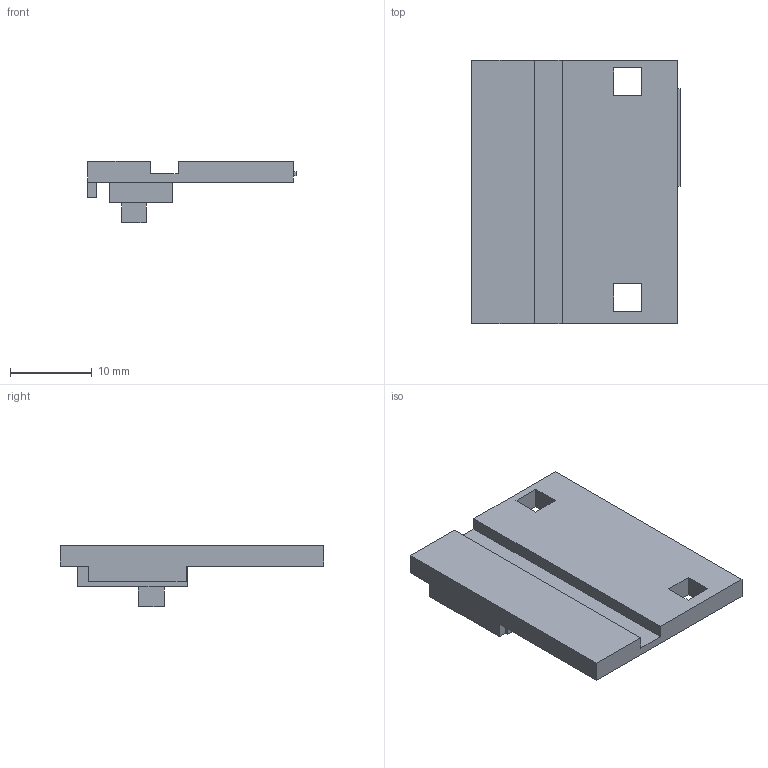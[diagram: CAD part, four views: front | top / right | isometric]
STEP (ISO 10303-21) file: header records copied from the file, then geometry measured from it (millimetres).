
FILE_DESCRIPTION(('FreeCAD Model'),'2;1');
FILE_NAME('Open CASCADE Shape Model','2026-11-20T16:32:56',('FreeCAD'),( 'FreeCAD'),'Open CASCADE STEP processor 7.8','FreeCAD','Unknown');
FILE_SCHEMA(('AUTOMOTIVE_DESIGN { 1 0 10303 214 1 1 1 1 }'));
Length unit declared in the file: millimetre
Products named in the file (1): Open CASCADE STEP translator 7.8 2
Bounding box: 25.54 x 32.35 x 7.54 mm (x, y, z)
Volume: 2143.9 mm3; surface area: 2278.1 mm2
Topology: 1 solids, 1 shells, 43 faces, 120 edges, 80 vertices
Faces by surface type: plane 43
Entity records: 1372 total; most frequent: CARTESIAN_POINT 244, ORIENTED_EDGE 240, DIRECTION 208, EDGE_CURVE 120, LINE 120, VECTOR 120, VERTEX_POINT 80, FACE_BOUND 48
